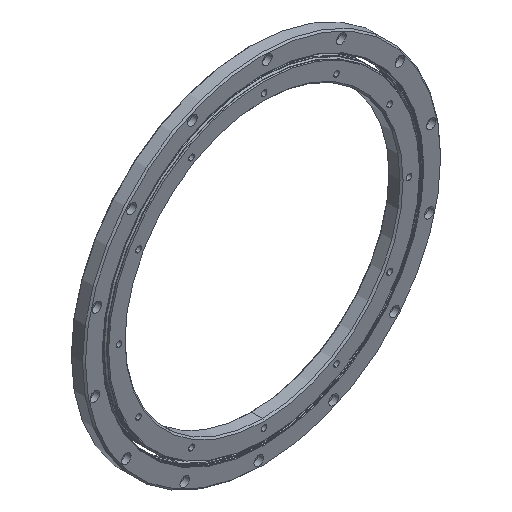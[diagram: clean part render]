
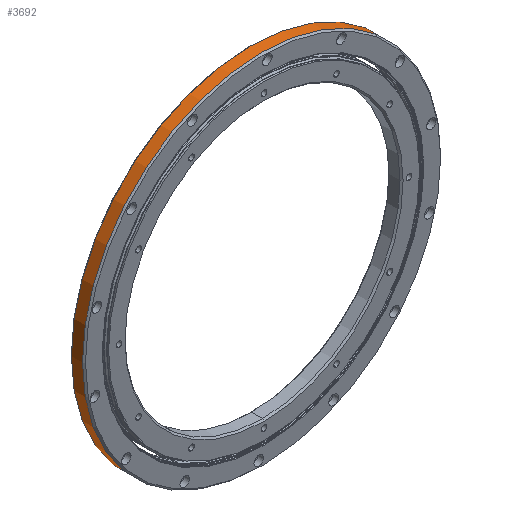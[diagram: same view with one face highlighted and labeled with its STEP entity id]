
A CAD part, isometric view. The second image highlights one B-rep face of the part: STEP entity #3692.
In plain terms, the highlighted cylindrical face has radius 177.8 mm (diameter 355.6 mm), a partial arc.
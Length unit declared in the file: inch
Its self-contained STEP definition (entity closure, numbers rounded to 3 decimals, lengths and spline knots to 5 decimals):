
#14 = FACE_OUTER_BOUND ( 'NONE', #813, .T. ) ;
#240 = LINE ( 'NONE', #4502, #1093 ) ;
#353 = CARTESIAN_POINT ( 'NONE',  ( 0., 0.5315, 0. ) ) ;
#775 = VECTOR ( 'NONE', #4056, 39.37008 ) ;
#813 = EDGE_LOOP ( 'NONE', ( #1036, #4446, #2848, #5104 ) ) ;
#849 = DIRECTION ( 'NONE',  ( 0., 0., -1. ) ) ;
#1036 = ORIENTED_EDGE ( 'NONE', *, *, #1625, .F. ) ;
#1093 = VECTOR ( 'NONE', #1094, 39.37008 ) ;
#1094 = DIRECTION ( 'NONE',  ( 0., -1., 0. ) ) ;
#1158 = CIRCLE ( 'NONE', #4437, 7. ) ;
#1161 = CYLINDRICAL_SURFACE ( 'NONE', #2767, 7. ) ;
#1298 = DIRECTION ( 'NONE',  ( 0., 0., -1. ) ) ;
#1340 = DIRECTION ( 'NONE',  ( 0., 1., 0. ) ) ;
#1625 = EDGE_CURVE ( 'NONE', #4550, #5767, #5734, .T. ) ;
#2068 = CIRCLE ( 'NONE', #5237, 7. ) ;
#2120 = VERTEX_POINT ( 'NONE', #6182 ) ;
#2130 = CARTESIAN_POINT ( 'NONE',  ( 0., 0., 7. ) ) ;
#2252 = DIRECTION ( 'NONE',  ( 0., -1., 0. ) ) ;
#2767 = AXIS2_PLACEMENT_3D ( 'NONE', #4203, #2252, #1298 ) ;
#2848 = ORIENTED_EDGE ( 'NONE', *, *, #3450, .T. ) ;
#3450 = EDGE_CURVE ( 'NONE', #5196, #2120, #240, .T. ) ;
#3692 = ADVANCED_FACE ( 'NONE', ( #14 ), #1161, .T. ) ;
#3749 = DIRECTION ( 'NONE',  ( 0., -1., 0. ) ) ;
#3892 = CARTESIAN_POINT ( 'NONE',  ( 0., 0.5315, -7. ) ) ;
#3924 = CARTESIAN_POINT ( 'NONE',  ( 0., 0.09843, 7. ) ) ;
#4044 = EDGE_CURVE ( 'NONE', #4550, #5196, #2068, .T. ) ;
#4056 = DIRECTION ( 'NONE',  ( 0., -1., 0. ) ) ;
#4203 = CARTESIAN_POINT ( 'NONE',  ( 0., 0., 0. ) ) ;
#4238 = CARTESIAN_POINT ( 'NONE',  ( 0., 0.09843, 0. ) ) ;
#4437 = AXIS2_PLACEMENT_3D ( 'NONE', #4238, #1340, #4717 ) ;
#4446 = ORIENTED_EDGE ( 'NONE', *, *, #4044, .T. ) ;
#4502 = CARTESIAN_POINT ( 'NONE',  ( 0., 0., -7. ) ) ;
#4550 = VERTEX_POINT ( 'NONE', #4552 ) ;
#4552 = CARTESIAN_POINT ( 'NONE',  ( 0., 0.5315, 7. ) ) ;
#4717 = DIRECTION ( 'NONE',  ( 0., 0., -1. ) ) ;
#5104 = ORIENTED_EDGE ( 'NONE', *, *, #6126, .T. ) ;
#5196 = VERTEX_POINT ( 'NONE', #3892 ) ;
#5237 = AXIS2_PLACEMENT_3D ( 'NONE', #353, #3749, #849 ) ;
#5734 = LINE ( 'NONE', #2130, #775 ) ;
#5767 = VERTEX_POINT ( 'NONE', #3924 ) ;
#6126 = EDGE_CURVE ( 'NONE', #2120, #5767, #1158, .T. ) ;
#6182 = CARTESIAN_POINT ( 'NONE',  ( 0., 0.09843, -7. ) ) ;
